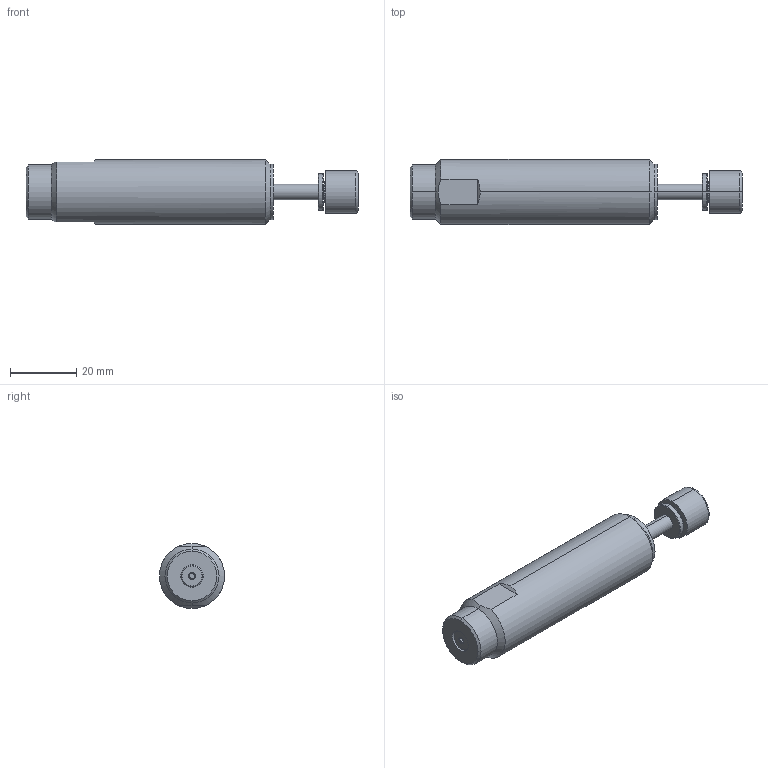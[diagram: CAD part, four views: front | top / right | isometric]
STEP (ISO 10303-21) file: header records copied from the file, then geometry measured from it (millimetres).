
FILE_DESCRIPTION (( 'STEP AP203' ), '1' );
FILE_NAME ('SPM 50MCB.STEP', '2009-04-27T13:10:06', ( ' ' ), ( '' ), 'SwSTEP 2.0', 'SolidWorks 2006233', '' );
FILE_SCHEMA (( 'CONFIG_CONTROL_DESIGN' ));
Length unit declared in the file: inch
Products named in the file (1): SPM 50MCB
Bounding box: 99.87 x 19.56 x 19.56 mm (x, y, z)
Surface area: 6485.2 mm2 (no closed solid volume)
Topology: 0 solids, 7 shells, 54 faces, 132 edges, 86 vertices
Faces by surface type: cylinder 18, plane 18, cone 14, torus 4
Entity records: 1715 total; most frequent: CARTESIAN_POINT 353, DIRECTION 292, ORIENTED_EDGE 234, EDGE_CURVE 132, AXIS2_PLACEMENT_3D 121, VERTEX_POINT 86, CIRCLE 66, EDGE_LOOP 61
